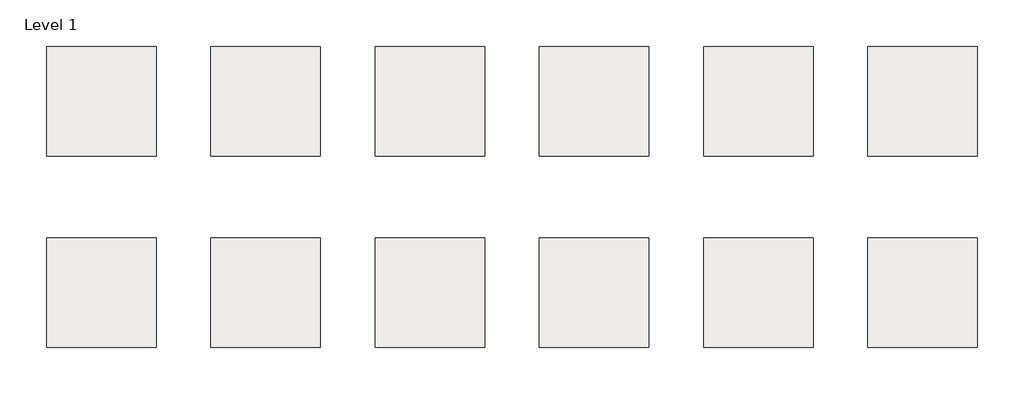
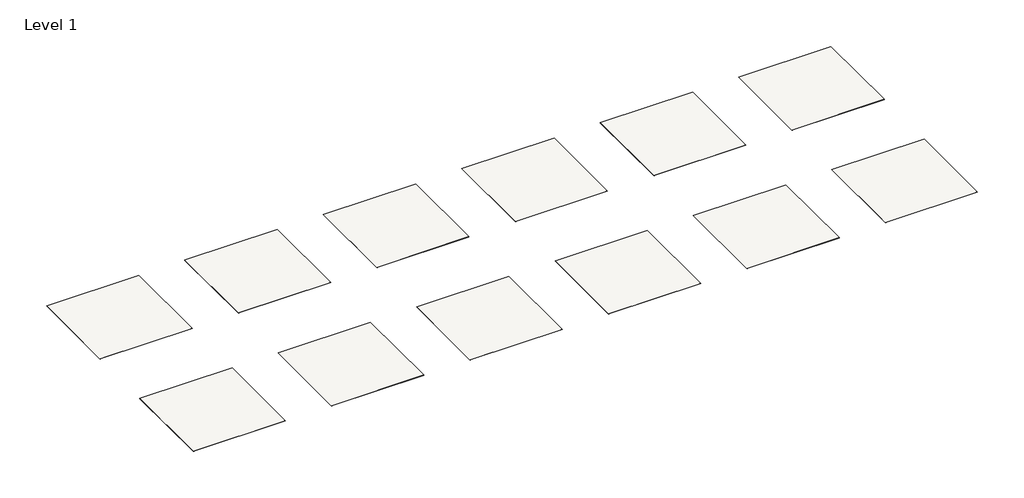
# One storey: 12 coverings.
"""IFC4 building model written with IfcOpenShell, lengths in millimetres."""

from ifc_helpers import new_model, si_unit, frame, origin, place, context, project, spatial, polyline, outline, extrude, element, save

model = new_model("IFC4")

# Units and contexts
model_context = context("Model", 3, world=origin())
ifc_project = project(units=[si_unit("LENGTHUNIT", "METRE", prefix="MILLI")], contexts=[model_context])

# Site, building, storey
site = spatial("IfcSite", under=ifc_project)
building = spatial("IfcBuilding", under=site)
storey = spatial("IfcBuildingStorey", under=building, Name="Level 1", Elevation=0.0)

# Coverings
placement = place(None, origin())
element("IfcCovering", 1, ObjectType="Tarkett Brasil - iQ Eminent - Blue", at=placement, inside=storey, context=model_context, shape_type="SweptSolid", body=[
    extrude(outline(polyline([(15446.7756557, 2899.6274006), (15446.7756557, 899.6274006), (13446.7756557, 899.6274006), (13446.7756557, 2899.6274006), (15446.7756557, 2899.6274006)])), frame((0.0, 0.0, -2.0), z_axis=(0.0, 0.0, 1.0), x_axis=(1.0, 0.0, 0.0)), (0.0, 0.0, 1.0), 2.0),
])
element("IfcCovering", 2, ObjectType="Tarkett Brasil - iQ Eminent - Clay", at=placement, inside=storey, context=model_context, shape_type="SweptSolid", body=[
    extrude(outline(polyline([(18446.7756557, 2899.6274006), (18446.7756557, 899.6274006), (16446.7756557, 899.6274006), (16446.7756557, 2899.6274006), (18446.7756557, 2899.6274006)])), frame((0.0, 0.0, -2.0), z_axis=(0.0, 0.0, 1.0), x_axis=(1.0, 0.0, 0.0)), (0.0, 0.0, 1.0), 2.0),
])
element("IfcCovering", 3, ObjectType="Tarkett Brasil - iQ Eminent - Dusty Beige", at=placement, inside=storey, context=model_context, shape_type="SweptSolid", body=[
    extrude(outline(polyline([(21446.7756557, 2899.6274006), (21446.7756557, 899.6274006), (19446.7756557, 899.6274006), (19446.7756557, 2899.6274006), (21446.7756557, 2899.6274006)])), frame((0.0, 0.0, -2.0), z_axis=(0.0, 0.0, 1.0), x_axis=(1.0, 0.0, 0.0)), (0.0, 0.0, 1.0), 2.0),
])
element("IfcCovering", 4, ObjectType="Tarkett Brasil - iQ Eminent - Dusty Blue", at=placement, inside=storey, context=model_context, shape_type="SweptSolid", body=[
    extrude(outline(polyline([(24446.7756557, 2899.6274006), (24446.7756557, 899.6274006), (22446.7756557, 899.6274006), (22446.7756557, 2899.6274006), (24446.7756557, 2899.6274006)])), frame((0.0, 0.0, -2.0), z_axis=(0.0, 0.0, 1.0), x_axis=(1.0, 0.0, 0.0)), (0.0, 0.0, 1.0), 2.0),
])
element("IfcCovering", 5, ObjectType="Tarkett Brasil - iQ Eminent - Dusty Brick", at=placement, inside=storey, context=model_context, shape_type="SweptSolid", body=[
    extrude(outline(polyline([(27446.7756557, 2899.6274006), (27446.7756557, 899.6274006), (25446.7756557, 899.6274006), (25446.7756557, 2899.6274006), (27446.7756557, 2899.6274006)])), frame((0.0, 0.0, -2.0), z_axis=(0.0, 0.0, 1.0), x_axis=(1.0, 0.0, 0.0)), (0.0, 0.0, 1.0), 2.0),
])
element("IfcCovering", 6, ObjectType="Tarkett Brasil - iQ Eminent - Dusty Green", at=placement, inside=storey, context=model_context, shape_type="SweptSolid", body=[
    extrude(outline(polyline([(30446.7756557, 2899.6274006), (30446.7756557, 899.6274006), (28446.7756557, 899.6274006), (28446.7756557, 2899.6274006), (30446.7756557, 2899.6274006)])), frame((0.0, 0.0, -2.0), z_axis=(0.0, 0.0, 1.0), x_axis=(1.0, 0.0, 0.0)), (0.0, 0.0, 1.0), 2.0),
])
element("IfcCovering", 7, ObjectType="Tarkett Brasil - iQ Eminent - Dusty Grey", at=placement, inside=storey, context=model_context, shape_type="SweptSolid", body=[
    extrude(outline(polyline([(15446.7756557, -600.3725994), (15446.7756557, -2600.3725994), (13446.7756557, -2600.3725994), (13446.7756557, -600.3725994), (15446.7756557, -600.3725994)])), frame((0.0, 0.0, -2.0), z_axis=(0.0, 0.0, 1.0), x_axis=(1.0, 0.0, 0.0)), (0.0, 0.0, 1.0), 2.0),
])
element("IfcCovering", 8, ObjectType="Tarkett Brasil - iQ Eminent - Dusty Sand", at=placement, inside=storey, context=model_context, shape_type="SweptSolid", body=[
    extrude(outline(polyline([(18446.7756557, -600.3725994), (18446.7756557, -2600.3725994), (16446.7756557, -2600.3725994), (16446.7756557, -600.3725994), (18446.7756557, -600.3725994)])), frame((0.0, 0.0, -2.0), z_axis=(0.0, 0.0, 1.0), x_axis=(1.0, 0.0, 0.0)), (0.0, 0.0, 1.0), 2.0),
])
element("IfcCovering", 9, ObjectType="Tarkett Brasil - iQ Eminent - Light Beige", at=placement, inside=storey, context=model_context, shape_type="SweptSolid", body=[
    extrude(outline(polyline([(21446.7756557, -600.3725994), (21446.7756557, -2600.3725994), (19446.7756557, -2600.3725994), (19446.7756557, -600.3725994), (21446.7756557, -600.3725994)])), frame((0.0, 0.0, -2.0), z_axis=(0.0, 0.0, 1.0), x_axis=(1.0, 0.0, 0.0)), (0.0, 0.0, 1.0), 2.0),
])
element("IfcCovering", 10, ObjectType="Tarkett Brasil - iQ Eminent - Light Grey", at=placement, inside=storey, context=model_context, shape_type="SweptSolid", body=[
    extrude(outline(polyline([(24446.7756557, -600.3725994), (24446.7756557, -2600.3725994), (22446.7756557, -2600.3725994), (22446.7756557, -600.3725994), (24446.7756557, -600.3725994)])), frame((0.0, 0.0, -2.0), z_axis=(0.0, 0.0, 1.0), x_axis=(1.0, 0.0, 0.0)), (0.0, 0.0, 1.0), 2.0),
])
element("IfcCovering", 11, ObjectType="Tarkett Brasil - iQ Eminent - Sand", at=placement, inside=storey, context=model_context, shape_type="SweptSolid", body=[
    extrude(outline(polyline([(27446.7756557, -600.3725994), (27446.7756557, -2600.3725994), (25446.7756557, -2600.3725994), (25446.7756557, -600.3725994), (27446.7756557, -600.3725994)])), frame((0.0, 0.0, -2.0), z_axis=(0.0, 0.0, 1.0), x_axis=(1.0, 0.0, 0.0)), (0.0, 0.0, 1.0), 2.0),
])
element("IfcCovering", 12, ObjectType="Tarkett Brasil - iQ Eminent - White", at=placement, inside=storey, context=model_context, shape_type="SweptSolid", body=[
    extrude(outline(polyline([(30446.7756557, -600.3725994), (30446.7756557, -2600.3725994), (28446.7756557, -2600.3725994), (28446.7756557, -600.3725994), (30446.7756557, -600.3725994)])), frame((0.0, 0.0, -2.0), z_axis=(0.0, 0.0, 1.0), x_axis=(1.0, 0.0, 0.0)), (0.0, 0.0, 1.0), 2.0),
])

save(model, "model.ifc")
